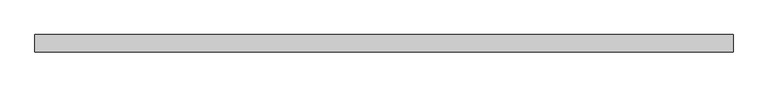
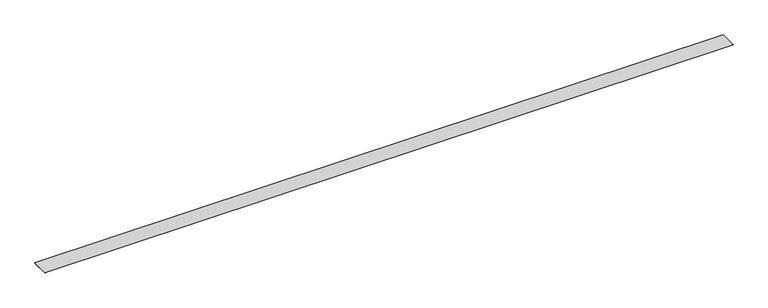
"""IFC4 building model written with IfcOpenShell, lengths in millimetres: proxy geometry, Sika® CarboDur® M914 : Sika® CarboDur® S1012."""

import ifcopenshell
import ifcopenshell.guid

model = None  # the IFC model being written
_history = None  # IfcOwnerHistory: only IFC2X3 demands one
_inside = {}  # id of a spatial element -> (the spatial element, [elements in it])
_under = {}  # id of a project, library or spatial element -> (it, [spatial elements below it])
_declared = {}  # id of a project -> (the project, [libraries it declares])
_typed = {}  # id of a type object -> (the type object, [elements of that type])
_made_of = {}  # id of a material, layer set ... -> (it, [elements and type objects made of it])


def new_model(schema):
    """Start an empty IFC model of exactly this schema.

    Asked for "IFC4X3", IfcOpenShell would pick the latest addendum, in which some entities
    have other attributes; the version numbers below select the first issue.
    IFC2X3 requires an IfcOwnerHistory on every rooted entity: one is made here for all.
    """
    global model, _history
    if schema == "IFC4X3":
        model = ifcopenshell.file(schema_version=(4, 3, 0, 0))
    else:
        model = ifcopenshell.file(schema=schema)
    _inside.clear()
    _under.clear()
    _declared.clear()
    _typed.clear()
    _made_of.clear()
    _history = None
    if model.schema == "IFC2X3":
        org = make("IfcOrganization", Name="unknown")
        user = make(
            "IfcPersonAndOrganization",
            ThePerson=make("IfcPerson", FamilyName="unknown"),
            TheOrganization=org,
        )
        app = make(
            "IfcApplication",
            ApplicationDeveloper=org,
            Version="unknown",
            ApplicationFullName="unknown",
            ApplicationIdentifier="unknown",
        )
        _history = make(
            "IfcOwnerHistory",
            OwningUser=user,
            OwningApplication=app,
            ChangeAction="ADDED",
            CreationDate=0,
        )
    return model


def make(cls, **values):
    """One entity of the class cls with the attributes given. An attribute that is None is left unset."""
    return model.create_entity(
        cls, **{name: value for name, value in values.items() if value is not None}
    )


def rooted(cls, **values):
    """An entity with a GlobalId (a new one), such as an element, a storey or a relation."""
    return make(cls, GlobalId=ifcopenshell.guid.new(), OwnerHistory=_history, **values)


def si_unit(unit_type, name, prefix=None):
    """IfcSIUnit, for example si_unit("LENGTHUNIT", "METRE", prefix="MILLI")."""
    return make("IfcSIUnit", UnitType=unit_type, Prefix=prefix, Name=name)


def assignment(units):
    """IfcUnitAssignment: the units of a project."""
    return None if units is None else make("IfcUnitAssignment", Units=units)


def point(xyz):
    """IfcCartesianPoint."""
    return None if xyz is None else make("IfcCartesianPoint", Coordinates=xyz)


def direction(xyz):
    """IfcDirection."""
    return None if xyz is None else make("IfcDirection", DirectionRatios=xyz)


def frame(location, z_axis=None, x_axis=None):
    """IfcAxis2Placement3D, a coordinate frame: its origin and axes. An axis left out is left unset."""
    return make(
        "IfcAxis2Placement3D",
        Location=point(location),
        Axis=direction(z_axis),
        RefDirection=direction(x_axis),
    )


def origin():
    """The frame at (0, 0, 0) with its axes left unset."""
    return frame((0.0, 0.0, 0.0))


def origin_with_axes():
    """The frame at (0, 0, 0) with the z axis (0, 0, 1) and the x axis (1, 0, 0) written out."""
    return frame((0.0, 0.0, 0.0), z_axis=(0.0, 0.0, 1.0), x_axis=(1.0, 0.0, 0.0))


def place(relative_to, where):
    """IfcLocalPlacement: puts the frame where relative to a parent placement (None: the world)."""
    return make(
        "IfcLocalPlacement", PlacementRelTo=relative_to, RelativePlacement=where
    )


def context(
    kind, dimensions, precision=None, world=None, true_north=None, identifier=None
):
    """IfcGeometricRepresentationContext, for example the 3D "Model" context."""
    return make(
        "IfcGeometricRepresentationContext",
        ContextIdentifier=identifier,
        ContextType=kind,
        CoordinateSpaceDimension=dimensions,
        Precision=precision,
        WorldCoordinateSystem=world,
        TrueNorth=true_north,
    )


def project(units=None, contexts=None):
    """IfcProject with its units and contexts."""
    return rooted(
        "IfcProject",
        Name="project",
        RepresentationContexts=contexts,
        UnitsInContext=assignment(units),
    )


def spatial(cls, under=None, at=None, **own):
    """A site, building, storey or space (cls), placed at a placement, below another one or the project."""
    s = rooted(cls, ObjectPlacement=at, **own)
    if under is not None:
        _under.setdefault(under.id(), (under, []))[1].append(s)
    return s


def polyline(points):
    """IfcPolyline through the points."""
    return make("IfcPolyline", Points=[point(p) for p in points])


def outline(outer, holes=None, kind="AREA"):
    """IfcArbitraryClosedProfileDef: a profile drawn as a closed curve; with holes, ...WithVoids."""
    if holes is None:
        return make("IfcArbitraryClosedProfileDef", ProfileType=kind, OuterCurve=outer)
    return make(
        "IfcArbitraryProfileDefWithVoids",
        ProfileType=kind,
        OuterCurve=outer,
        InnerCurves=holes,
    )


def extrude(swept, where, along, depth):
    """IfcExtrudedAreaSolid: the profile swept, set in the frame where, extruded along a direction by depth."""
    return make(
        "IfcExtrudedAreaSolid",
        SweptArea=swept,
        Position=where,
        ExtrudedDirection=direction(along),
        Depth=depth,
    )


def shape(context_of_items, identifier, shape_type, items):
    """IfcShapeRepresentation: the items that make up one representation, for example the "Body"."""
    return make(
        "IfcShapeRepresentation",
        ContextOfItems=context_of_items,
        RepresentationIdentifier=identifier,
        RepresentationType=shape_type,
        Items=items,
    )


def source(mapping_origin, context_of_items, identifier, shape_type, items):
    """IfcRepresentationMap: a shape defined once, which mapped items show again and again."""
    return make(
        "IfcRepresentationMap",
        MappingOrigin=mapping_origin,
        MappedRepresentation=shape(context_of_items, identifier, shape_type, items),
    )


def transform(
    local_origin,
    x_axis=None,
    y_axis=None,
    z_axis=None,
    scale=None,
    scale2=None,
    scale3=None,
    uniform=True,
):
    """IfcCartesianTransformationOperator3D, or its non-uniform kind. x_axis, y_axis, z_axis: its Axis1, 2, 3."""
    if uniform:
        return make(
            "IfcCartesianTransformationOperator3D",
            Axis1=direction(x_axis),
            Axis2=direction(y_axis),
            LocalOrigin=point(local_origin),
            Scale=scale,
            Axis3=direction(z_axis),
        )
    return make(
        "IfcCartesianTransformationOperator3DnonUniform",
        Axis1=direction(x_axis),
        Axis2=direction(y_axis),
        LocalOrigin=point(local_origin),
        Scale=scale,
        Axis3=direction(z_axis),
        Scale2=scale2,
        Scale3=scale3,
    )


def mapped(mapping_source, mapping_target):
    """IfcMappedItem: shows the shape of a source again, moved by a transform."""
    return make(
        "IfcMappedItem", MappingSource=mapping_source, MappingTarget=mapping_target
    )


def made_of(thing, what):
    """Note that an element or type object is made of a material, layer set ...; save() writes the relation."""
    if what is not None:
        _made_of.setdefault(what.id(), (what, []))[1].append(thing)
    return thing


def element(
    cls,
    number,
    at=None,
    inside=None,
    cuts=None,
    type_object=None,
    material=None,
    context=None,
    identifier="Body",
    shape_type=None,
    held_by="IfcProductDefinitionShape",
    body=None,
    shapes=None,
    **own,
):
    """One element of the class cls, such as IfcWall. Its Tag is "e" and its number.

    at: its placement. inside: the storey or other place that contains it. cuts: it is an
    opening in that element (IfcRelVoidsElement). A single representation is given by context,
    identifier, shape_type and body (its items); several are given by shapes. held_by: the class
    of the entity that holds the representations. save() writes the other relations.
    """
    e = rooted(cls, Tag="e%d" % number, ObjectPlacement=at, **own)
    if body is not None:
        shapes = [shape(context, identifier, shape_type, body)]
    if shapes is not None:
        e.Representation = make(held_by, Representations=shapes)
    if inside is not None:
        _inside.setdefault(inside.id(), (inside, []))[1].append(e)
    if cuts is not None:
        rooted(
            "IfcRelVoidsElement", RelatingBuildingElement=cuts, RelatedOpeningElement=e
        )
    if type_object is not None:
        _typed.setdefault(type_object.id(), (type_object, []))[1].append(e)
    return made_of(e, material)


def aggregate(whole, parts):
    """IfcRelAggregates: a whole, such as a stair, and the parts it consists of."""
    return rooted("IfcRelAggregates", RelatingObject=whole, RelatedObjects=parts)


def save(model, path):
    """Write the relations noted so far, then the file.

    IfcRelAggregates (storeys below a building ...), IfcRelContainedInSpatialStructure (elements
    in a storey), IfcRelDefinesByType, IfcRelAssociatesMaterial and IfcRelDeclares: one each for
    every whole, place, type object, material and project.
    """
    for whole, parts in _under.values():
        aggregate(whole, parts)
    for where, things in _inside.values():
        rooted(
            "IfcRelContainedInSpatialStructure",
            RelatedElements=things,
            RelatingStructure=where,
        )
    for kind, things in _typed.values():
        rooted("IfcRelDefinesByType", RelatedObjects=things, RelatingType=kind)
    for what, things in _made_of.values():
        rooted("IfcRelAssociatesMaterial", RelatedObjects=things, RelatingMaterial=what)
    for by, libraries in _declared.values():
        rooted("IfcRelDeclares", RelatingContext=by, RelatedDefinitions=libraries)
    model.write(path)


def generic_models_b1344a45(model_context):
    return source(origin(), model_context, "Body", "SweptSolid", [
        extrude(outline(polyline([(2016.9606019, -50.0), (-2016.9606019, -50.0), (-2016.9606019, 50.0), (2016.9606019, 50.0), (2016.9606019, -50.0)])), origin_with_axes(), (0.0, 0.0, 1.0), 1.2),
    ])


if __name__ == "__main__":
    model = new_model("IFC4")
    model_context = context("Model", 3, world=origin())
    ifc_project = project(units=[si_unit("LENGTHUNIT", "METRE", prefix="MILLI")], contexts=[model_context])
    site = spatial("IfcSite", under=ifc_project)
    building = spatial("IfcBuilding", under=site)
    placement = place(None, origin())
    generic_models_shape = generic_models_b1344a45(model_context)
    element("IfcBuildingElementProxy", 1, Name="Sika® CarboDur® M914 : Sika® CarboDur® S1012", ObjectType="Sika® CarboDur® M914 : Sika® CarboDur® S1012", at=placement, inside=building, context=model_context, shape_type="MappedRepresentation", body=[
        mapped(generic_models_shape, transform((0.0, 0.0, 0.0), x_axis=(1.0, 0.0, 0.0), y_axis=(0.0, 1.0, 0.0), z_axis=(0.0, 0.0, 1.0))),
    ])
    save(model, "model.ifc")
